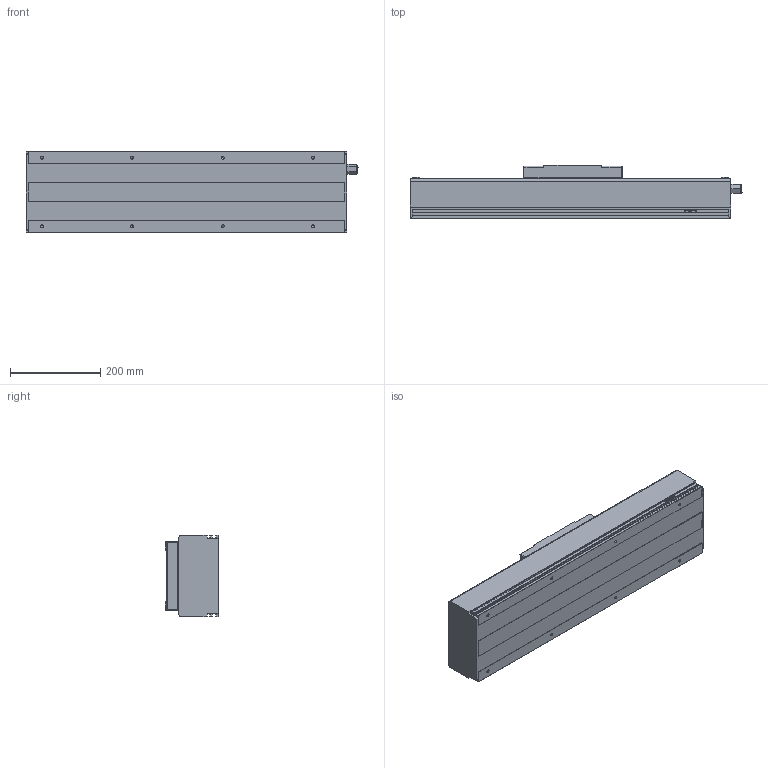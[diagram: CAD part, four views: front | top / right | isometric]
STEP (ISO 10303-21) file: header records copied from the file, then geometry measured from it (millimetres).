
FILE_DESCRIPTION(/* description */ (''),/* implementation_level */ '2;1');
FILE_NAME(/* name */ 'D:\混合母檔20191031\混和母檔\混和母檔\bin\Debug\Download\3D\KS180-10C-200AFI\KS180-10C-200AFI.stp',/* time_stamp */ '2019-11-04T16:12:19+08:00',/* author */ ('user'),/* organization */ (''),/* preprocessor_version */ 'ST-DEVELOPER v16.13',/* originating_system */ 'Autodesk Inventor 2018',/* authorisation */ '');
FILE_SCHEMA (('AUTOMOTIVE_DESIGN { 1 0 10303 214 3 1 1 }'));
Length unit declared in the file: millimetre
Products named in the file (3): KS180-10C-200AFI; KS180-FI; KS180-SL
Assembly tree (2 placements, depth 2):
  KS180-10C-200AFI
    KS180-FI
    KS180-SL
Bounding box: 734.5 x 118 x 180 mm (x, y, z)
Volume: 4568492.5 mm3; surface area: 951296.3 mm2
Topology: 4 solids, 8 shells, 726 faces, 1934 edges, 1262 vertices
Faces by surface type: plane 408, bspline 136, cylinder 82, cone 80, torus 16, sphere 4
Full cylindrical faces by diameter (mm): 3.571 x4, 4 x4, 4.134 x4, 4.5 x4, 6 x6, 6.647 x8, 8 x6, 8.016 x1, 8.4 x4, 9.4 x4, 12 x2, 13.1 x1, 15 x1, 18.75 x2, 46 x1, 50 x1
Entity records: 26263 total; most frequent: CARTESIAN_POINT 9304, ORIENTED_EDGE 3650, DIRECTION 3034, EDGE_CURVE 1824, VERTEX_POINT 1241, LINE 1172, VECTOR 1172, AXIS2_PLACEMENT_3D 931
